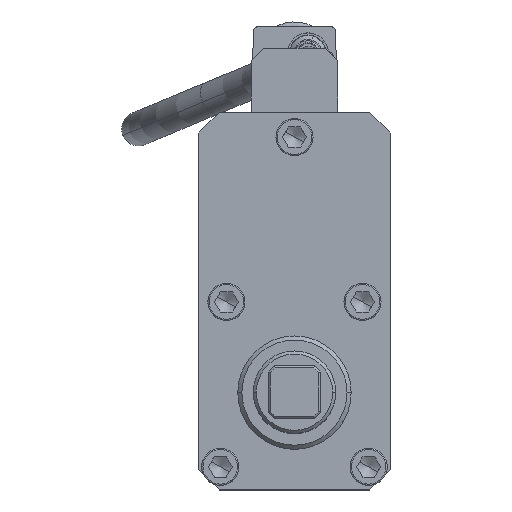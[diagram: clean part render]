
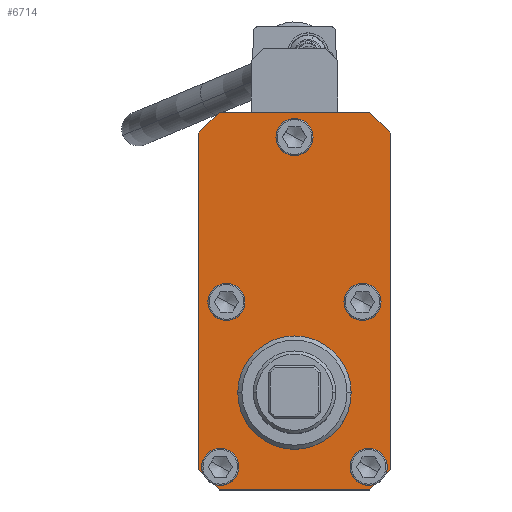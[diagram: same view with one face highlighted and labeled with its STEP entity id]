
A CAD part, top view. The second image highlights one B-rep face of the part: STEP entity #6714.
In plain terms, the highlighted planar face has unit normal (0, 0, 1).
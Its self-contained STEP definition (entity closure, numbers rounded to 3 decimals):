
#6343=AXIS2_PLACEMENT_3D('Circle Axis2P3D',#6341,#6342,$) ;
#6362=AXIS2_PLACEMENT_3D('Circle Axis2P3D',#6360,#6361,$) ;
#6571=AXIS2_PLACEMENT_3D('Circle Axis2P3D',#6569,#6570,$) ;
#6602=AXIS2_PLACEMENT_3D('Circle Axis2P3D',#6600,#6601,$) ;
#6622=AXIS2_PLACEMENT_3D('Plane Axis2P3D',#6619,#6620,#6621) ;
#6644=AXIS2_PLACEMENT_3D('Circle Axis2P3D',#6642,#6643,$) ;
#6653=AXIS2_PLACEMENT_3D('Circle Axis2P3D',#6651,#6652,$) ;
#6662=AXIS2_PLACEMENT_3D('Circle Axis2P3D',#6660,#6661,$) ;
#6671=AXIS2_PLACEMENT_3D('Circle Axis2P3D',#6669,#6670,$) ;
#6680=AXIS2_PLACEMENT_3D('Circle Axis2P3D',#6678,#6679,$) ;
#6689=AXIS2_PLACEMENT_3D('Circle Axis2P3D',#6687,#6688,$) ;
#6698=AXIS2_PLACEMENT_3D('Circle Axis2P3D',#6696,#6697,$) ;
#6707=AXIS2_PLACEMENT_3D('Circle Axis2P3D',#6705,#6706,$) ;
#6338=CARTESIAN_POINT('Vertex',(27.5,-94.43,581.6)) ;
#6341=CARTESIAN_POINT('Axis2P3D Location',(0.,-94.43,581.6)) ;
#6345=CARTESIAN_POINT('Vertex',(-27.5,-94.43,581.6)) ;
#6360=CARTESIAN_POINT('Axis2P3D Location',(0.,-94.43,581.6)) ;
#6381=CARTESIAN_POINT('Vertex',(-36.5,-141.43,581.6)) ;
#6384=CARTESIAN_POINT('Line Origine',(-41.5,-136.43,581.6)) ;
#6388=CARTESIAN_POINT('Vertex',(-46.5,-131.43,581.6)) ;
#6412=CARTESIAN_POINT('Vertex',(36.5,-141.43,581.6)) ;
#6415=CARTESIAN_POINT('Line Origine',(0.,-141.43,581.6)) ;
#6436=CARTESIAN_POINT('Vertex',(46.5,-131.43,581.6)) ;
#6439=CARTESIAN_POINT('Line Origine',(41.5,-136.43,581.6)) ;
#6460=CARTESIAN_POINT('Vertex',(46.5,31.57,581.6)) ;
#6463=CARTESIAN_POINT('Line Origine',(46.5,-49.93,581.6)) ;
#6484=CARTESIAN_POINT('Vertex',(36.5,41.57,581.6)) ;
#6487=CARTESIAN_POINT('Line Origine',(41.5,36.57,581.6)) ;
#6504=CARTESIAN_POINT('Line Origine',(0.,41.57,581.6)) ;
#6508=CARTESIAN_POINT('Vertex',(-36.5,41.57,581.6)) ;
#6532=CARTESIAN_POINT('Vertex',(-46.5,31.57,581.6)) ;
#6535=CARTESIAN_POINT('Line Origine',(-41.5,36.57,581.6)) ;
#6552=CARTESIAN_POINT('Line Origine',(-46.5,-49.93,581.6)) ;
#6569=CARTESIAN_POINT('Axis2P3D Location',(-36.,-130.43,581.6)) ;
#6573=CARTESIAN_POINT('Vertex',(-31.127,-133.092,581.6)) ;
#6575=CARTESIAN_POINT('Vertex',(-40.873,-127.768,581.6)) ;
#6600=CARTESIAN_POINT('Axis2P3D Location',(-36.,-130.43,581.6)) ;
#6619=CARTESIAN_POINT('Axis2P3D Location',(0.,-94.43,581.6)) ;
#6642=CARTESIAN_POINT('Axis2P3D Location',(-33.,-50.43,581.6)) ;
#6646=CARTESIAN_POINT('Vertex',(-37.873,-47.768,581.6)) ;
#6648=CARTESIAN_POINT('Vertex',(-28.127,-53.092,581.6)) ;
#6651=CARTESIAN_POINT('Axis2P3D Location',(-33.,-50.43,581.6)) ;
#6660=CARTESIAN_POINT('Axis2P3D Location',(33.,-50.43,581.6)) ;
#6664=CARTESIAN_POINT('Vertex',(28.127,-47.768,581.6)) ;
#6666=CARTESIAN_POINT('Vertex',(37.873,-53.092,581.6)) ;
#6669=CARTESIAN_POINT('Axis2P3D Location',(33.,-50.43,581.6)) ;
#6678=CARTESIAN_POINT('Axis2P3D Location',(36.,-130.43,581.6)) ;
#6682=CARTESIAN_POINT('Vertex',(31.127,-127.768,581.6)) ;
#6684=CARTESIAN_POINT('Vertex',(40.873,-133.092,581.6)) ;
#6687=CARTESIAN_POINT('Axis2P3D Location',(36.,-130.43,581.6)) ;
#6696=CARTESIAN_POINT('Axis2P3D Location',(0.,29.57,581.6)) ;
#6700=CARTESIAN_POINT('Vertex',(-4.873,32.232,581.6)) ;
#6702=CARTESIAN_POINT('Vertex',(4.873,26.908,581.6)) ;
#6705=CARTESIAN_POINT('Axis2P3D Location',(0.,29.57,581.6)) ;
#6342=DIRECTION('Axis2P3D Direction',(0.,0.,1.)) ;
#6361=DIRECTION('Axis2P3D Direction',(0.,0.,1.)) ;
#6385=DIRECTION('Vector Direction',(0.707,-0.707,0.)) ;
#6416=DIRECTION('Vector Direction',(-1.,0.,0.)) ;
#6440=DIRECTION('Vector Direction',(-0.707,-0.707,0.)) ;
#6464=DIRECTION('Vector Direction',(0.,-1.,0.)) ;
#6488=DIRECTION('Vector Direction',(-0.707,0.707,0.)) ;
#6505=DIRECTION('Vector Direction',(1.,0.,0.)) ;
#6536=DIRECTION('Vector Direction',(0.707,0.707,0.)) ;
#6553=DIRECTION('Vector Direction',(0.,1.,0.)) ;
#6570=DIRECTION('Axis2P3D Direction',(0.,0.,1.)) ;
#6601=DIRECTION('Axis2P3D Direction',(0.,0.,1.)) ;
#6620=DIRECTION('Axis2P3D Direction',(0.,0.,-1.)) ;
#6621=DIRECTION('Axis2P3D XDirection',(-1.,0.,0.)) ;
#6643=DIRECTION('Axis2P3D Direction',(0.,0.,-1.)) ;
#6652=DIRECTION('Axis2P3D Direction',(0.,0.,-1.)) ;
#6661=DIRECTION('Axis2P3D Direction',(0.,0.,-1.)) ;
#6670=DIRECTION('Axis2P3D Direction',(0.,0.,-1.)) ;
#6679=DIRECTION('Axis2P3D Direction',(0.,0.,-1.)) ;
#6688=DIRECTION('Axis2P3D Direction',(0.,0.,-1.)) ;
#6697=DIRECTION('Axis2P3D Direction',(0.,0.,-1.)) ;
#6706=DIRECTION('Axis2P3D Direction',(0.,0.,-1.)) ;
#6386=VECTOR('Line Direction',#6385,1.) ;
#6417=VECTOR('Line Direction',#6416,1.) ;
#6441=VECTOR('Line Direction',#6440,1.) ;
#6465=VECTOR('Line Direction',#6464,1.) ;
#6489=VECTOR('Line Direction',#6488,1.) ;
#6506=VECTOR('Line Direction',#6505,1.) ;
#6537=VECTOR('Line Direction',#6536,1.) ;
#6554=VECTOR('Line Direction',#6553,1.) ;
#6625=ORIENTED_EDGE('',*,*,#6390,.F.) ;
#6626=ORIENTED_EDGE('',*,*,#6419,.F.) ;
#6627=ORIENTED_EDGE('',*,*,#6443,.F.) ;
#6628=ORIENTED_EDGE('',*,*,#6467,.F.) ;
#6629=ORIENTED_EDGE('',*,*,#6491,.F.) ;
#6630=ORIENTED_EDGE('',*,*,#6510,.F.) ;
#6631=ORIENTED_EDGE('',*,*,#6539,.F.) ;
#6632=ORIENTED_EDGE('',*,*,#6556,.F.) ;
#6635=ORIENTED_EDGE('',*,*,#6577,.T.) ;
#6636=ORIENTED_EDGE('',*,*,#6604,.T.) ;
#6639=ORIENTED_EDGE('',*,*,#6347,.F.) ;
#6640=ORIENTED_EDGE('',*,*,#6364,.F.) ;
#6657=ORIENTED_EDGE('',*,*,#6650,.T.) ;
#6658=ORIENTED_EDGE('',*,*,#6655,.T.) ;
#6675=ORIENTED_EDGE('',*,*,#6668,.T.) ;
#6676=ORIENTED_EDGE('',*,*,#6673,.T.) ;
#6693=ORIENTED_EDGE('',*,*,#6686,.T.) ;
#6694=ORIENTED_EDGE('',*,*,#6691,.T.) ;
#6711=ORIENTED_EDGE('',*,*,#6704,.T.) ;
#6712=ORIENTED_EDGE('',*,*,#6709,.T.) ;
#6637=FACE_BOUND('',#6634,.T.) ;
#6641=FACE_BOUND('',#6638,.T.) ;
#6659=FACE_BOUND('',#6656,.T.) ;
#6677=FACE_BOUND('',#6674,.T.) ;
#6695=FACE_BOUND('',#6692,.T.) ;
#6713=FACE_BOUND('',#6710,.T.) ;
#6714=ADVANCED_FACE('AO3460.1\\AO3425_Gehaeuse.1\\Hauptk\X2\00F6\X0\rper',(#6633,#6637,#6641,#6659,#6677,#6695,#6713),#6623,.F.) ;
#6344=CIRCLE('generated circle',#6343,27.5) ;
#6363=CIRCLE('generated circle',#6362,27.5) ;
#6572=CIRCLE('generated circle',#6571,5.553) ;
#6603=CIRCLE('generated circle',#6602,5.553) ;
#6645=CIRCLE('generated circle',#6644,5.553) ;
#6654=CIRCLE('generated circle',#6653,5.553) ;
#6663=CIRCLE('generated circle',#6662,5.553) ;
#6672=CIRCLE('generated circle',#6671,5.553) ;
#6681=CIRCLE('generated circle',#6680,5.553) ;
#6690=CIRCLE('generated circle',#6689,5.553) ;
#6699=CIRCLE('generated circle',#6698,5.553) ;
#6708=CIRCLE('generated circle',#6707,5.553) ;
#6347=EDGE_CURVE('',#6339,#6346,#6344,.T.) ;
#6364=EDGE_CURVE('',#6346,#6339,#6363,.T.) ;
#6390=EDGE_CURVE('',#6382,#6389,#6387,.F.) ;
#6419=EDGE_CURVE('',#6413,#6382,#6418,.T.) ;
#6443=EDGE_CURVE('',#6437,#6413,#6442,.T.) ;
#6467=EDGE_CURVE('',#6461,#6437,#6466,.T.) ;
#6491=EDGE_CURVE('',#6485,#6461,#6490,.F.) ;
#6510=EDGE_CURVE('',#6509,#6485,#6507,.T.) ;
#6539=EDGE_CURVE('',#6533,#6509,#6538,.T.) ;
#6556=EDGE_CURVE('',#6389,#6533,#6555,.T.) ;
#6577=EDGE_CURVE('',#6574,#6576,#6572,.F.) ;
#6604=EDGE_CURVE('',#6576,#6574,#6603,.F.) ;
#6650=EDGE_CURVE('',#6647,#6649,#6645,.T.) ;
#6655=EDGE_CURVE('',#6649,#6647,#6654,.T.) ;
#6668=EDGE_CURVE('',#6665,#6667,#6663,.T.) ;
#6673=EDGE_CURVE('',#6667,#6665,#6672,.T.) ;
#6686=EDGE_CURVE('',#6683,#6685,#6681,.T.) ;
#6691=EDGE_CURVE('',#6685,#6683,#6690,.T.) ;
#6704=EDGE_CURVE('',#6701,#6703,#6699,.T.) ;
#6709=EDGE_CURVE('',#6703,#6701,#6708,.T.) ;
#6624=EDGE_LOOP('',(#6625,#6626,#6627,#6628,#6629,#6630,#6631,#6632)) ;
#6634=EDGE_LOOP('',(#6635,#6636)) ;
#6638=EDGE_LOOP('',(#6639,#6640)) ;
#6656=EDGE_LOOP('',(#6657,#6658)) ;
#6674=EDGE_LOOP('',(#6675,#6676)) ;
#6692=EDGE_LOOP('',(#6693,#6694)) ;
#6710=EDGE_LOOP('',(#6711,#6712)) ;
#6633=FACE_OUTER_BOUND('',#6624,.T.) ;
#6387=LINE('Line',#6384,#6386) ;
#6418=LINE('Line',#6415,#6417) ;
#6442=LINE('Line',#6439,#6441) ;
#6466=LINE('Line',#6463,#6465) ;
#6490=LINE('Line',#6487,#6489) ;
#6507=LINE('Line',#6504,#6506) ;
#6538=LINE('Line',#6535,#6537) ;
#6555=LINE('Line',#6552,#6554) ;
#6623=PLANE('Plane',#6622) ;
#6339=VERTEX_POINT('',#6338) ;
#6346=VERTEX_POINT('',#6345) ;
#6382=VERTEX_POINT('',#6381) ;
#6389=VERTEX_POINT('',#6388) ;
#6413=VERTEX_POINT('',#6412) ;
#6437=VERTEX_POINT('',#6436) ;
#6461=VERTEX_POINT('',#6460) ;
#6485=VERTEX_POINT('',#6484) ;
#6509=VERTEX_POINT('',#6508) ;
#6533=VERTEX_POINT('',#6532) ;
#6574=VERTEX_POINT('',#6573) ;
#6576=VERTEX_POINT('',#6575) ;
#6647=VERTEX_POINT('',#6646) ;
#6649=VERTEX_POINT('',#6648) ;
#6665=VERTEX_POINT('',#6664) ;
#6667=VERTEX_POINT('',#6666) ;
#6683=VERTEX_POINT('',#6682) ;
#6685=VERTEX_POINT('',#6684) ;
#6701=VERTEX_POINT('',#6700) ;
#6703=VERTEX_POINT('',#6702) ;
